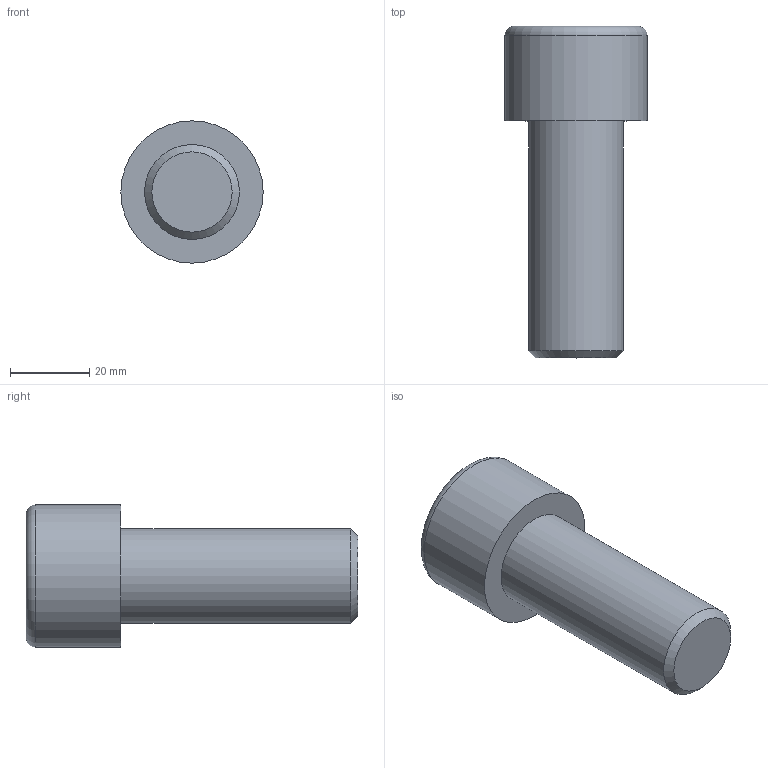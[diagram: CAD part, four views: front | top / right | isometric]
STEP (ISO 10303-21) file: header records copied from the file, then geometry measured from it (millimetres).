
FILE_DESCRIPTION(/* description */ (''),/* implementation_level */ '2;1');
FILE_NAME(/* name */ 'C:\Users\D\Documents\Inventor\各種小物\JIS\JIS B 1176 六角穴付きボルト\M24x60.stp',/* time_stamp */ '2022-05-09T18:59:57+09:00',/* author */ ('D'),/* organization */ (''),/* preprocessor_version */ 'ST-DEVELOPER v18',/* originating_system */ 'Autodesk Inventor 2020',/* authorisation */ '');
FILE_SCHEMA (('AUTOMOTIVE_DESIGN { 1 0 10303 214 3 1 1 }'));
Length unit declared in the file: millimetre
Products named in the file (1): M1.6x2.5
Bounding box: 36 x 84 x 36 mm (x, y, z)
Volume: 46787.8 mm3; surface area: 9944.1 mm2
Topology: 1 solids, 1 shells, 14 faces, 33 edges, 22 vertices
Faces by surface type: plane 9, cone 2, cylinder 2, torus 1
Full cylindrical faces by diameter (mm): 24 x1, 36 x1
Entity records: 435 total; most frequent: CARTESIAN_POINT 83, ORIENTED_EDGE 64, DIRECTION 64, EDGE_CURVE 32, AXIS2_PLACEMENT_3D 24, VERTEX_POINT 22, EDGE_LOOP 16, LINE 16
